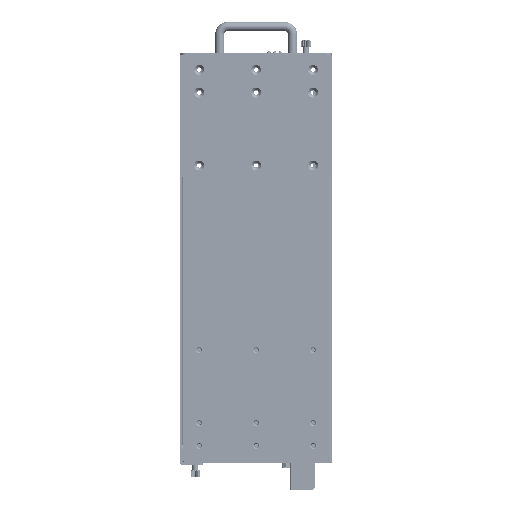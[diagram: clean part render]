
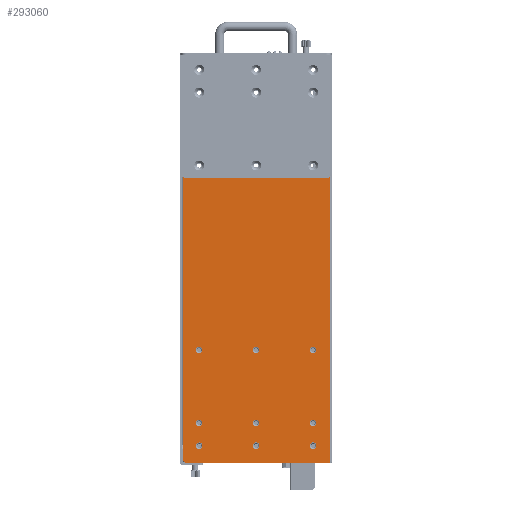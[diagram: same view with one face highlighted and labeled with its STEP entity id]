
A CAD part, left-side view. The second image highlights one B-rep face of the part: STEP entity #293060.
In plain terms, the highlighted planar face has unit normal (-1, 0, 0).
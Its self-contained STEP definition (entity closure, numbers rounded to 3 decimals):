
#67369=CARTESIAN_POINT('',(-220.,116.4,-345.));
#67370=DIRECTION('',(1.,0.,0.));
#67371=DIRECTION('',(0.,0.,-1.));
#67372=AXIS2_PLACEMENT_3D('',#67369,#67370,#67371);
#67374=CARTESIAN_POINT('',(-220.,116.4,-345.));
#67375=DIRECTION('',(1.,0.,0.));
#67376=DIRECTION('',(0.,0.,1.));
#67377=AXIS2_PLACEMENT_3D('',#67374,#67375,#67376);
#67379=CARTESIAN_POINT('',(-220.,66.4,-345.));
#67380=DIRECTION('',(1.,0.,0.));
#67381=DIRECTION('',(0.,0.,1.));
#67382=AXIS2_PLACEMENT_3D('',#67379,#67380,#67381);
#67384=CARTESIAN_POINT('',(-220.,66.4,-345.));
#67385=DIRECTION('',(1.,0.,0.));
#67386=DIRECTION('',(0.,0.,-1.));
#67387=AXIS2_PLACEMENT_3D('',#67384,#67385,#67386);
#67389=CARTESIAN_POINT('',(-220.,16.4,-345.));
#67390=DIRECTION('',(1.,0.,0.));
#67391=DIRECTION('',(0.,0.,1.));
#67392=AXIS2_PLACEMENT_3D('',#67389,#67390,#67391);
#67394=CARTESIAN_POINT('',(-220.,16.4,-345.));
#67395=DIRECTION('',(1.,0.,0.));
#67396=DIRECTION('',(0.,0.,-1.));
#67397=AXIS2_PLACEMENT_3D('',#67394,#67395,#67396);
#67399=CARTESIAN_POINT('',(-220.,16.4,-325.));
#67400=DIRECTION('',(1.,0.,0.));
#67401=DIRECTION('',(0.,0.,1.));
#67402=AXIS2_PLACEMENT_3D('',#67399,#67400,#67401);
#67404=CARTESIAN_POINT('',(-220.,16.4,-325.));
#67405=DIRECTION('',(1.,0.,0.));
#67406=DIRECTION('',(0.,0.,-1.));
#67407=AXIS2_PLACEMENT_3D('',#67404,#67405,#67406);
#67409=CARTESIAN_POINT('',(-220.,66.4,-325.));
#67410=DIRECTION('',(1.,0.,0.));
#67411=DIRECTION('',(0.,0.,1.));
#67412=AXIS2_PLACEMENT_3D('',#67409,#67410,#67411);
#67414=CARTESIAN_POINT('',(-220.,66.4,-325.));
#67415=DIRECTION('',(1.,0.,0.));
#67416=DIRECTION('',(0.,0.,-1.));
#67417=AXIS2_PLACEMENT_3D('',#67414,#67415,#67416);
#67419=CARTESIAN_POINT('',(-220.,116.4,-325.));
#67420=DIRECTION('',(1.,0.,0.));
#67421=DIRECTION('',(0.,0.,-1.));
#67422=AXIS2_PLACEMENT_3D('',#67419,#67420,#67421);
#67424=CARTESIAN_POINT('',(-220.,116.4,-325.));
#67425=DIRECTION('',(1.,0.,0.));
#67426=DIRECTION('',(0.,0.,1.));
#67427=AXIS2_PLACEMENT_3D('',#67424,#67425,#67426);
#67429=CARTESIAN_POINT('',(-220.,116.4,-261.));
#67430=DIRECTION('',(1.,0.,0.));
#67431=DIRECTION('',(0.,0.,-1.));
#67432=AXIS2_PLACEMENT_3D('',#67429,#67430,#67431);
#67434=CARTESIAN_POINT('',(-220.,116.4,-261.));
#67435=DIRECTION('',(1.,0.,0.));
#67436=DIRECTION('',(0.,0.,1.));
#67437=AXIS2_PLACEMENT_3D('',#67434,#67435,#67436);
#67439=CARTESIAN_POINT('',(-220.,66.4,-261.));
#67440=DIRECTION('',(1.,0.,0.));
#67441=DIRECTION('',(0.,0.,1.));
#67442=AXIS2_PLACEMENT_3D('',#67439,#67440,#67441);
#67444=CARTESIAN_POINT('',(-220.,66.4,-261.));
#67445=DIRECTION('',(1.,0.,0.));
#67446=DIRECTION('',(0.,0.,-1.));
#67447=AXIS2_PLACEMENT_3D('',#67444,#67445,#67446);
#67449=CARTESIAN_POINT('',(-220.,16.4,-261.));
#67450=DIRECTION('',(1.,0.,0.));
#67451=DIRECTION('',(0.,0.,-1.));
#67452=AXIS2_PLACEMENT_3D('',#67449,#67450,#67451);
#67454=CARTESIAN_POINT('',(-220.,16.4,-261.));
#67455=DIRECTION('',(1.,0.,0.));
#67456=DIRECTION('',(0.,0.,1.));
#67457=AXIS2_PLACEMENT_3D('',#67454,#67455,#67456);
#67483=CARTESIAN_POINT('',(-220.,127.8,-105.));
#67484=DIRECTION('',(1.,0.,0.));
#67485=DIRECTION('',(0.,0.,-1.));
#67486=AXIS2_PLACEMENT_3D('',#67483,#67484,#67485);
#67488=DIRECTION('',(0.,1.,0.));
#67489=VECTOR('',#67488,122.8);
#67490=CARTESIAN_POINT('',(-220.,5.,-110.));
#67491=LINE('',#67490,#67489);
#67492=CARTESIAN_POINT('',(-220.,5.,-105.));
#67493=DIRECTION('',(1.,0.,0.));
#67494=DIRECTION('',(0.,-0.76,-0.65));
#67495=AXIS2_PLACEMENT_3D('',#67492,#67493,#67494);
#67497=DIRECTION('',(0.,-1.,0.));
#67498=VECTOR('',#67497,126.1);
#67499=CARTESIAN_POINT('',(-220.,127.3,-360.));
#67500=LINE('',#67499,#67498);
#67501=CARTESIAN_POINT('',(-220.,127.3,-357.));
#67502=DIRECTION('',(-1.,0.,0.));
#67503=DIRECTION('',(0.,1.,0.));
#67504=AXIS2_PLACEMENT_3D('',#67501,#67502,#67503);
#67506=DIRECTION('',(0.,0.,-1.));
#67507=VECTOR('',#67506,13.);
#67508=CARTESIAN_POINT('',(-220.,130.3,-344.));
#67509=LINE('',#67508,#67507);
#67783=DIRECTION('',(0.,0.,-1.));
#67784=VECTOR('',#67783,1.4);
#67785=CARTESIAN_POINT('',(-220.,1.2,-358.6));
#67786=LINE('',#67785,#67784);
#67821=DIRECTION('',(0.,0.,1.));
#67822=VECTOR('',#67821,234.67);
#67823=CARTESIAN_POINT('',(-220.,130.3,-344.));
#67824=LINE('',#67823,#67822);
#69886=DIRECTION('',(0.,0.,-1.));
#69887=VECTOR('',#69886,250.35);
#69888=CARTESIAN_POINT('',(-220.,1.2,-108.25));
#69889=LINE('',#69888,#69887);
#127256=CARTESIAN_POINT('',(-220.,1.2,-358.6));
#127257=VERTEX_POINT('',#127256);
#127258=CARTESIAN_POINT('',(-220.,1.2,-360.));
#127259=VERTEX_POINT('',#127258);
#127356=CARTESIAN_POINT('',(-220.,127.3,-360.));
#127357=VERTEX_POINT('',#127356);
#127480=CARTESIAN_POINT('',(-220.,130.3,-357.));
#127481=VERTEX_POINT('',#127480);
#127610=CARTESIAN_POINT('',(-220.,130.3,-344.));
#127611=VERTEX_POINT('',#127610);
#128598=CARTESIAN_POINT('',(-220.,116.4,-347.95));
#128599=CARTESIAN_POINT('',(-220.,116.4,-342.05));
#128600=VERTEX_POINT('',#128598);
#128601=VERTEX_POINT('',#128599);
#128752=CARTESIAN_POINT('',(-220.,66.4,-342.05));
#128753=CARTESIAN_POINT('',(-220.,66.4,-347.95));
#128754=VERTEX_POINT('',#128752);
#128755=VERTEX_POINT('',#128753);
#128956=CARTESIAN_POINT('',(-220.,16.4,-342.05));
#128957=CARTESIAN_POINT('',(-220.,16.4,-347.95));
#128958=VERTEX_POINT('',#128956);
#128959=VERTEX_POINT('',#128957);
#129175=CARTESIAN_POINT('',(-220.,16.4,-322.05));
#129176=CARTESIAN_POINT('',(-220.,16.4,-327.95));
#129177=VERTEX_POINT('',#129175);
#129178=VERTEX_POINT('',#129176);
#129416=CARTESIAN_POINT('',(-220.,66.4,-322.05));
#129417=CARTESIAN_POINT('',(-220.,66.4,-327.95));
#129418=VERTEX_POINT('',#129416);
#129419=VERTEX_POINT('',#129417);
#129646=CARTESIAN_POINT('',(-220.,116.4,-327.95));
#129647=CARTESIAN_POINT('',(-220.,116.4,-322.05));
#129648=VERTEX_POINT('',#129646);
#129649=VERTEX_POINT('',#129647);
#129870=CARTESIAN_POINT('',(-220.,116.4,-263.95));
#129871=CARTESIAN_POINT('',(-220.,116.4,-258.05));
#129872=VERTEX_POINT('',#129870);
#129873=VERTEX_POINT('',#129871);
#130072=CARTESIAN_POINT('',(-220.,66.4,-258.05));
#130073=CARTESIAN_POINT('',(-220.,66.4,-263.95));
#130074=VERTEX_POINT('',#130072);
#130075=VERTEX_POINT('',#130073);
#130252=CARTESIAN_POINT('',(-220.,16.4,-263.95));
#130253=CARTESIAN_POINT('',(-220.,16.4,-258.05));
#130254=VERTEX_POINT('',#130252);
#130255=VERTEX_POINT('',#130253);
#158875=CARTESIAN_POINT('',(-220.,1.2,-108.25));
#158877=VERTEX_POINT('',#158875);
#158885=CARTESIAN_POINT('',(-220.,127.8,-110.));
#158886=CARTESIAN_POINT('',(-220.,130.3,-109.33));
#158887=VERTEX_POINT('',#158885);
#158888=VERTEX_POINT('',#158886);
#158889=CARTESIAN_POINT('',(-220.,5.,-110.));
#158890=VERTEX_POINT('',#158889);
#292982=CARTESIAN_POINT('',(-220.,1.2,-358.6));
#292983=DIRECTION('',(1.,0.,0.));
#292984=DIRECTION('',(0.,1.,0.));
#292985=AXIS2_PLACEMENT_3D('',#292982,#292983,#292984);
#292986=PLANE('',#292985);
#292988=ORIENTED_EDGE('',*,*,#292987,.F.);
#292990=ORIENTED_EDGE('',*,*,#292989,.F.);
#292991=ORIENTED_EDGE('',*,*,#292921,.F.);
#292993=ORIENTED_EDGE('',*,*,#292992,.T.);
#292995=ORIENTED_EDGE('',*,*,#292994,.T.);
#292997=ORIENTED_EDGE('',*,*,#292996,.F.);
#292999=ORIENTED_EDGE('',*,*,#292998,.F.);
#293001=ORIENTED_EDGE('',*,*,#293000,.F.);
#293003=ORIENTED_EDGE('',*,*,#293002,.T.);
#293004=EDGE_LOOP('',(#292988,#292990,#292991,#292993,#292995,#292997,#292999,
#293001,#293003));
#293005=FACE_OUTER_BOUND('',#293004,.F.);
#293007=ORIENTED_EDGE('',*,*,#293006,.F.);
#293009=ORIENTED_EDGE('',*,*,#293008,.F.);
#293010=EDGE_LOOP('',(#293007,#293009));
#293011=FACE_BOUND('',#293010,.F.);
#293013=ORIENTED_EDGE('',*,*,#293012,.F.);
#293015=ORIENTED_EDGE('',*,*,#293014,.F.);
#293016=EDGE_LOOP('',(#293013,#293015));
#293017=FACE_BOUND('',#293016,.F.);
#293019=ORIENTED_EDGE('',*,*,#293018,.F.);
#293021=ORIENTED_EDGE('',*,*,#293020,.F.);
#293022=EDGE_LOOP('',(#293019,#293021));
#293023=FACE_BOUND('',#293022,.F.);
#293025=ORIENTED_EDGE('',*,*,#293024,.F.);
#293027=ORIENTED_EDGE('',*,*,#293026,.F.);
#293028=EDGE_LOOP('',(#293025,#293027));
#293029=FACE_BOUND('',#293028,.F.);
#293031=ORIENTED_EDGE('',*,*,#293030,.F.);
#293033=ORIENTED_EDGE('',*,*,#293032,.F.);
#293034=EDGE_LOOP('',(#293031,#293033));
#293035=FACE_BOUND('',#293034,.F.);
#293037=ORIENTED_EDGE('',*,*,#293036,.F.);
#293039=ORIENTED_EDGE('',*,*,#293038,.F.);
#293040=EDGE_LOOP('',(#293037,#293039));
#293041=FACE_BOUND('',#293040,.F.);
#293043=ORIENTED_EDGE('',*,*,#293042,.F.);
#293045=ORIENTED_EDGE('',*,*,#293044,.F.);
#293046=EDGE_LOOP('',(#293043,#293045));
#293047=FACE_BOUND('',#293046,.F.);
#293049=ORIENTED_EDGE('',*,*,#293048,.F.);
#293051=ORIENTED_EDGE('',*,*,#293050,.F.);
#293052=EDGE_LOOP('',(#293049,#293051));
#293053=FACE_BOUND('',#293052,.F.);
#293055=ORIENTED_EDGE('',*,*,#293054,.F.);
#293057=ORIENTED_EDGE('',*,*,#293056,.F.);
#293058=EDGE_LOOP('',(#293055,#293057));
#293059=FACE_BOUND('',#293058,.F.);
#67373=CIRCLE('',#67372,2.95);
#67378=CIRCLE('',#67377,2.95);
#67383=CIRCLE('',#67382,2.95);
#67388=CIRCLE('',#67387,2.95);
#67393=CIRCLE('',#67392,2.95);
#67398=CIRCLE('',#67397,2.95);
#67403=CIRCLE('',#67402,2.95);
#67408=CIRCLE('',#67407,2.95);
#67413=CIRCLE('',#67412,2.95);
#67418=CIRCLE('',#67417,2.95);
#67423=CIRCLE('',#67422,2.95);
#67428=CIRCLE('',#67427,2.95);
#67433=CIRCLE('',#67432,2.95);
#67438=CIRCLE('',#67437,2.95);
#67443=CIRCLE('',#67442,2.95);
#67448=CIRCLE('',#67447,2.95);
#67453=CIRCLE('',#67452,2.95);
#67458=CIRCLE('',#67457,2.95);
#67487=CIRCLE('',#67486,5.);
#67496=CIRCLE('',#67495,5.);
#67505=CIRCLE('',#67504,3.);
#292921=EDGE_CURVE('',#158877,#158890,#67496,.T.);
#292987=EDGE_CURVE('',#158887,#158888,#67487,.T.);
#292989=EDGE_CURVE('',#158890,#158887,#67491,.T.);
#292992=EDGE_CURVE('',#158877,#127257,#69889,.T.);
#292994=EDGE_CURVE('',#127257,#127259,#67786,.T.);
#292996=EDGE_CURVE('',#127357,#127259,#67500,.T.);
#292998=EDGE_CURVE('',#127481,#127357,#67505,.T.);
#293000=EDGE_CURVE('',#127611,#127481,#67509,.T.);
#293002=EDGE_CURVE('',#127611,#158888,#67824,.T.);
#293006=EDGE_CURVE('',#128600,#128601,#67373,.T.);
#293008=EDGE_CURVE('',#128601,#128600,#67378,.T.);
#293012=EDGE_CURVE('',#128754,#128755,#67383,.T.);
#293014=EDGE_CURVE('',#128755,#128754,#67388,.T.);
#293018=EDGE_CURVE('',#128958,#128959,#67393,.T.);
#293020=EDGE_CURVE('',#128959,#128958,#67398,.T.);
#293024=EDGE_CURVE('',#129177,#129178,#67403,.T.);
#293026=EDGE_CURVE('',#129178,#129177,#67408,.T.);
#293030=EDGE_CURVE('',#129418,#129419,#67413,.T.);
#293032=EDGE_CURVE('',#129419,#129418,#67418,.T.);
#293036=EDGE_CURVE('',#129648,#129649,#67423,.T.);
#293038=EDGE_CURVE('',#129649,#129648,#67428,.T.);
#293042=EDGE_CURVE('',#129872,#129873,#67433,.T.);
#293044=EDGE_CURVE('',#129873,#129872,#67438,.T.);
#293048=EDGE_CURVE('',#130074,#130075,#67443,.T.);
#293050=EDGE_CURVE('',#130075,#130074,#67448,.T.);
#293054=EDGE_CURVE('',#130254,#130255,#67453,.T.);
#293056=EDGE_CURVE('',#130255,#130254,#67458,.T.);
#293060=ADVANCED_FACE('',(#293005,#293011,#293017,#293023,#293029,#293035,
#293041,#293047,#293053,#293059),#292986,.F.);
